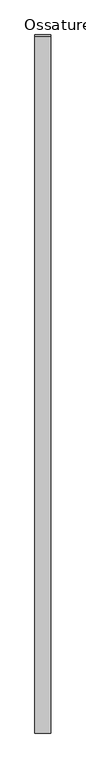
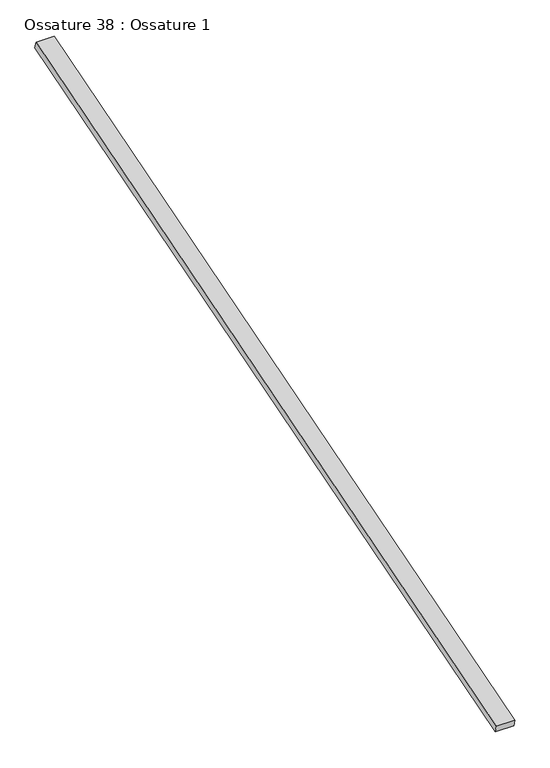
"""IFC4 building model written with IfcOpenShell, lengths in millimetres: beam geometry, Ossature 38 : Ossature 1."""

import ifcopenshell
import ifcopenshell.guid

model = None  # the IFC model being written
_history = None  # IfcOwnerHistory: only IFC2X3 demands one
_inside = {}  # id of a spatial element -> (the spatial element, [elements in it])
_under = {}  # id of a project, library or spatial element -> (it, [spatial elements below it])
_declared = {}  # id of a project -> (the project, [libraries it declares])
_typed = {}  # id of a type object -> (the type object, [elements of that type])
_made_of = {}  # id of a material, layer set ... -> (it, [elements and type objects made of it])


def new_model(schema):
    """Start an empty IFC model of exactly this schema.

    Asked for "IFC4X3", IfcOpenShell would pick the latest addendum, in which some entities
    have other attributes; the version numbers below select the first issue.
    IFC2X3 requires an IfcOwnerHistory on every rooted entity: one is made here for all.
    """
    global model, _history
    if schema == "IFC4X3":
        model = ifcopenshell.file(schema_version=(4, 3, 0, 0))
    else:
        model = ifcopenshell.file(schema=schema)
    _inside.clear()
    _under.clear()
    _declared.clear()
    _typed.clear()
    _made_of.clear()
    _history = None
    if model.schema == "IFC2X3":
        org = make("IfcOrganization", Name="unknown")
        user = make(
            "IfcPersonAndOrganization",
            ThePerson=make("IfcPerson", FamilyName="unknown"),
            TheOrganization=org,
        )
        app = make(
            "IfcApplication",
            ApplicationDeveloper=org,
            Version="unknown",
            ApplicationFullName="unknown",
            ApplicationIdentifier="unknown",
        )
        _history = make(
            "IfcOwnerHistory",
            OwningUser=user,
            OwningApplication=app,
            ChangeAction="ADDED",
            CreationDate=0,
        )
    return model


def make(cls, **values):
    """One entity of the class cls with the attributes given. An attribute that is None is left unset."""
    return model.create_entity(
        cls, **{name: value for name, value in values.items() if value is not None}
    )


def rooted(cls, **values):
    """An entity with a GlobalId (a new one), such as an element, a storey or a relation."""
    return make(cls, GlobalId=ifcopenshell.guid.new(), OwnerHistory=_history, **values)


def si_unit(unit_type, name, prefix=None):
    """IfcSIUnit, for example si_unit("LENGTHUNIT", "METRE", prefix="MILLI")."""
    return make("IfcSIUnit", UnitType=unit_type, Prefix=prefix, Name=name)


def assignment(units):
    """IfcUnitAssignment: the units of a project."""
    return None if units is None else make("IfcUnitAssignment", Units=units)


def point(xyz):
    """IfcCartesianPoint."""
    return None if xyz is None else make("IfcCartesianPoint", Coordinates=xyz)


def direction(xyz):
    """IfcDirection."""
    return None if xyz is None else make("IfcDirection", DirectionRatios=xyz)


def frame(location, z_axis=None, x_axis=None):
    """IfcAxis2Placement3D, a coordinate frame: its origin and axes. An axis left out is left unset."""
    return make(
        "IfcAxis2Placement3D",
        Location=point(location),
        Axis=direction(z_axis),
        RefDirection=direction(x_axis),
    )


def origin():
    """The frame at (0, 0, 0) with its axes left unset."""
    return frame((0.0, 0.0, 0.0))


def place(relative_to, where):
    """IfcLocalPlacement: puts the frame where relative to a parent placement (None: the world)."""
    return make(
        "IfcLocalPlacement", PlacementRelTo=relative_to, RelativePlacement=where
    )


def context(
    kind, dimensions, precision=None, world=None, true_north=None, identifier=None
):
    """IfcGeometricRepresentationContext, for example the 3D "Model" context."""
    return make(
        "IfcGeometricRepresentationContext",
        ContextIdentifier=identifier,
        ContextType=kind,
        CoordinateSpaceDimension=dimensions,
        Precision=precision,
        WorldCoordinateSystem=world,
        TrueNorth=true_north,
    )


def project(units=None, contexts=None):
    """IfcProject with its units and contexts."""
    return rooted(
        "IfcProject",
        Name="project",
        RepresentationContexts=contexts,
        UnitsInContext=assignment(units),
    )


def spatial(cls, under=None, at=None, **own):
    """A site, building, storey or space (cls), placed at a placement, below another one or the project."""
    s = rooted(cls, ObjectPlacement=at, **own)
    if under is not None:
        _under.setdefault(under.id(), (under, []))[1].append(s)
    return s


def polyline(points):
    """IfcPolyline through the points."""
    return make("IfcPolyline", Points=[point(p) for p in points])


def outline(outer, holes=None, kind="AREA"):
    """IfcArbitraryClosedProfileDef: a profile drawn as a closed curve; with holes, ...WithVoids."""
    if holes is None:
        return make("IfcArbitraryClosedProfileDef", ProfileType=kind, OuterCurve=outer)
    return make(
        "IfcArbitraryProfileDefWithVoids",
        ProfileType=kind,
        OuterCurve=outer,
        InnerCurves=holes,
    )


def extrude(swept, where, along, depth):
    """IfcExtrudedAreaSolid: the profile swept, set in the frame where, extruded along a direction by depth."""
    return make(
        "IfcExtrudedAreaSolid",
        SweptArea=swept,
        Position=where,
        ExtrudedDirection=direction(along),
        Depth=depth,
    )


def shape(context_of_items, identifier, shape_type, items):
    """IfcShapeRepresentation: the items that make up one representation, for example the "Body"."""
    return make(
        "IfcShapeRepresentation",
        ContextOfItems=context_of_items,
        RepresentationIdentifier=identifier,
        RepresentationType=shape_type,
        Items=items,
    )


def source(mapping_origin, context_of_items, identifier, shape_type, items):
    """IfcRepresentationMap: a shape defined once, which mapped items show again and again."""
    return make(
        "IfcRepresentationMap",
        MappingOrigin=mapping_origin,
        MappedRepresentation=shape(context_of_items, identifier, shape_type, items),
    )


def transform(
    local_origin,
    x_axis=None,
    y_axis=None,
    z_axis=None,
    scale=None,
    scale2=None,
    scale3=None,
    uniform=True,
):
    """IfcCartesianTransformationOperator3D, or its non-uniform kind. x_axis, y_axis, z_axis: its Axis1, 2, 3."""
    if uniform:
        return make(
            "IfcCartesianTransformationOperator3D",
            Axis1=direction(x_axis),
            Axis2=direction(y_axis),
            LocalOrigin=point(local_origin),
            Scale=scale,
            Axis3=direction(z_axis),
        )
    return make(
        "IfcCartesianTransformationOperator3DnonUniform",
        Axis1=direction(x_axis),
        Axis2=direction(y_axis),
        LocalOrigin=point(local_origin),
        Scale=scale,
        Axis3=direction(z_axis),
        Scale2=scale2,
        Scale3=scale3,
    )


def mapped(mapping_source, mapping_target):
    """IfcMappedItem: shows the shape of a source again, moved by a transform."""
    return make(
        "IfcMappedItem", MappingSource=mapping_source, MappingTarget=mapping_target
    )


def made_of(thing, what):
    """Note that an element or type object is made of a material, layer set ...; save() writes the relation."""
    if what is not None:
        _made_of.setdefault(what.id(), (what, []))[1].append(thing)
    return thing


def element(
    cls,
    number,
    at=None,
    inside=None,
    cuts=None,
    type_object=None,
    material=None,
    context=None,
    identifier="Body",
    shape_type=None,
    held_by="IfcProductDefinitionShape",
    body=None,
    shapes=None,
    **own,
):
    """One element of the class cls, such as IfcWall. Its Tag is "e" and its number.

    at: its placement. inside: the storey or other place that contains it. cuts: it is an
    opening in that element (IfcRelVoidsElement). A single representation is given by context,
    identifier, shape_type and body (its items); several are given by shapes. held_by: the class
    of the entity that holds the representations. save() writes the other relations.
    """
    e = rooted(cls, Tag="e%d" % number, ObjectPlacement=at, **own)
    if body is not None:
        shapes = [shape(context, identifier, shape_type, body)]
    if shapes is not None:
        e.Representation = make(held_by, Representations=shapes)
    if inside is not None:
        _inside.setdefault(inside.id(), (inside, []))[1].append(e)
    if cuts is not None:
        rooted(
            "IfcRelVoidsElement", RelatingBuildingElement=cuts, RelatedOpeningElement=e
        )
    if type_object is not None:
        _typed.setdefault(type_object.id(), (type_object, []))[1].append(e)
    return made_of(e, material)


def aggregate(whole, parts):
    """IfcRelAggregates: a whole, such as a stair, and the parts it consists of."""
    return rooted("IfcRelAggregates", RelatingObject=whole, RelatedObjects=parts)


def save(model, path):
    """Write the relations noted so far, then the file.

    IfcRelAggregates (storeys below a building ...), IfcRelContainedInSpatialStructure (elements
    in a storey), IfcRelDefinesByType, IfcRelAssociatesMaterial and IfcRelDeclares: one each for
    every whole, place, type object, material and project.
    """
    for whole, parts in _under.values():
        aggregate(whole, parts)
    for where, things in _inside.values():
        rooted(
            "IfcRelContainedInSpatialStructure",
            RelatedElements=things,
            RelatingStructure=where,
        )
    for kind, things in _typed.values():
        rooted("IfcRelDefinesByType", RelatedObjects=things, RelatingType=kind)
    for what, things in _made_of.values():
        rooted("IfcRelAssociatesMaterial", RelatedObjects=things, RelatingMaterial=what)
    for by, libraries in _declared.values():
        rooted("IfcRelDeclares", RelatingContext=by, RelatedDefinitions=libraries)
    model.write(path)


def ossature_38_ossature_1_37d30d6c(model_context):
    return source(origin(), model_context, "Body", "SweptSolid", [
        extrude(outline(polyline([(0.0, 0.0), (0.0, -4543.0299679), (-100.0, -4543.0299679), (-100.0, 0.0), (0.0, 0.0)])), frame((9352.0466393, -833.3913565, 8153.6336115), z_axis=(0.0, -0.28734788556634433, 0.9578262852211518), x_axis=(-1.0, 0.0, 0.0)), (0.0, 0.0, 1.0), 40.0),
    ])


if __name__ == "__main__":
    model = new_model("IFC4")
    model_context = context("Model", 3, world=origin())
    ifc_project = project(units=[si_unit("LENGTHUNIT", "METRE", prefix="MILLI")], contexts=[model_context])
    site = spatial("IfcSite", under=ifc_project)
    building = spatial("IfcBuilding", under=site)
    placement = place(None, origin())
    ossature_38_ossature_1_shape = ossature_38_ossature_1_37d30d6c(model_context)
    element("IfcBeam", 1, ObjectType="Ossature 38 : Ossature 1", at=placement, inside=building, context=model_context, shape_type="MappedRepresentation", body=[
        mapped(ossature_38_ossature_1_shape, transform((0.0, 0.0, 0.0), x_axis=(1.0, 0.0, 0.0), y_axis=(0.0, 1.0, 0.0), z_axis=(0.0, 0.0, 1.0))),
    ])
    save(model, "model.ifc")
